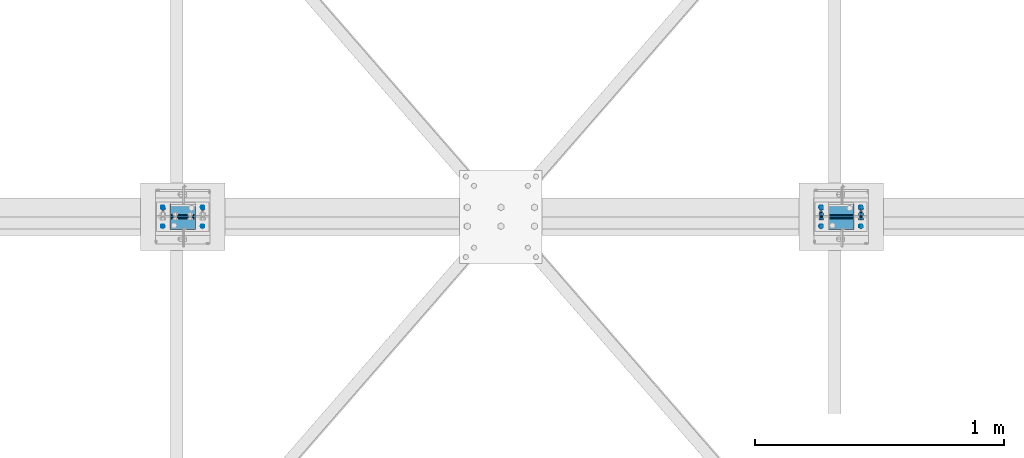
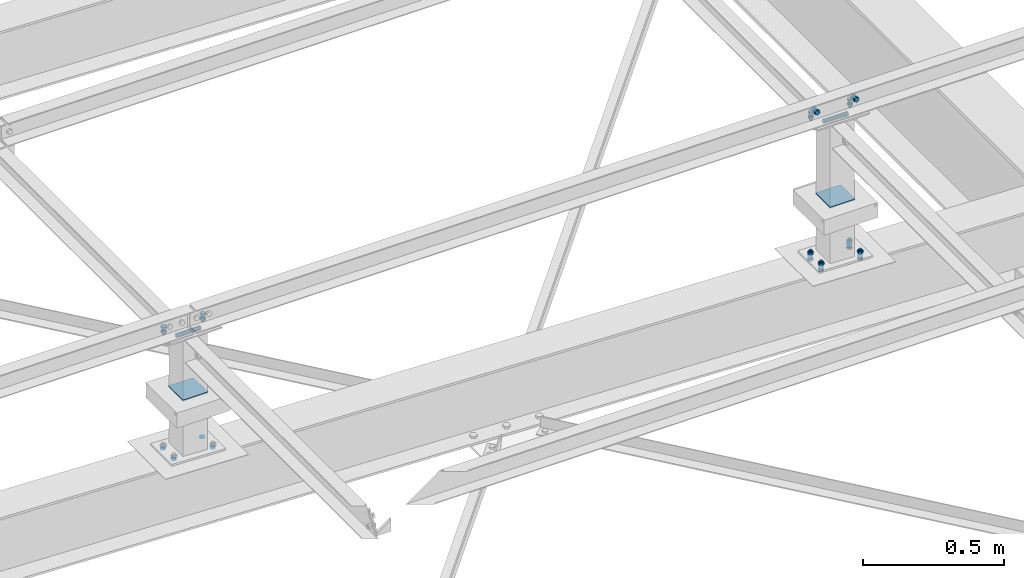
# One storey, part 173 of 3134: 10 mechanical fasteners, 6 elements without a shape of their own.
"""IFC2X3 building model written with IfcOpenShell, lengths in millimetres."""

from ifc_helpers import new_model, si_unit, frame, origin_with_axes, place, context, subcontext, project, spatial, faceted_brep, source, transform, mapped, material, type_object, element, aggregate, save


model = new_model("IFC2X3")

# Units and contexts
model_context = context("Model", 3, precision=1e-05, world=origin_with_axes())
body_context = subcontext(model_context, "Body", "Model", "MODEL_VIEW")
ifc_project = project(units=[si_unit("LENGTHUNIT", "METRE", prefix="MILLI"), si_unit("AREAUNIT", "SQUARE_METRE"), si_unit("VOLUMEUNIT", "CUBIC_METRE"), si_unit("MASSUNIT", "GRAM", prefix="KILO"), si_unit("TIMEUNIT", "SECOND"), si_unit("PLANEANGLEUNIT", "RADIAN"), si_unit("SOLIDANGLEUNIT", "STERADIAN"), si_unit("THERMODYNAMICTEMPERATUREUNIT", "DEGREE_CELSIUS"), si_unit("LUMINOUSINTENSITYUNIT", "LUMEN")], contexts=[model_context])

# Site, building, storey
site_placement = place(None, origin_with_axes())
site = spatial("IfcSite", under=ifc_project, at=site_placement, CompositionType="ELEMENT")
building_placement = place(site_placement, origin_with_axes())
building = spatial("IfcBuilding", under=site, at=building_placement, Name="Undefined", CompositionType="ELEMENT")
storey_placement = place(building_placement, origin_with_axes())
storey = spatial("IfcBuildingStorey", under=building, at=storey_placement, Name="Undefined", CompositionType="ELEMENT", Elevation=0.0)

# Assembly, mechanical fastener
assembly_1_placement = place(storey_placement, origin_with_axes())
assembly_1 = element("IfcElementAssembly", 1, at=assembly_1_placement, inside=storey, AssemblyPlace="NOTDEFINED", PredefinedType="RIGID_FRAME")
ifc_material_1 = material(Name="8.8")
mechanical_fastener_type = type_object("IfcMechanicalFastenerType", Name="Bolt assembly")
shared_shape_1 = source(origin_with_axes(), body_context, "Body", "Brep", [
    faceted_brep([(10.9696551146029, -14.0, 0.0), (5.48482755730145, -14.0, 9.5), (-5.48482755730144, -14.0, 9.5), (-10.9696551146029, -14.0, 1.34339530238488e-15), (-5.48482755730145, -14.0, -9.5), (5.48482755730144, -14.0, -9.50000000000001), (5.48482755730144, -6.0, -9.50000000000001), (-5.48482755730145, -6.0, -9.5), (-10.9696551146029, -6.0, 1.34339530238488e-15), (-5.48482755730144, -6.0, 9.5), (5.48482755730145, -6.0, 9.5), (10.9696551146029, -6.0, 0.0), (6.0, -6.0, 0.0), (5.19615242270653, -6.0, 3.00000000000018), (2.99999999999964, -6.0, 5.19615242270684), (-6.21801588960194e-13, -6.0, 6.0), (-3.00000000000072, -6.0, 5.19615242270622), (-5.19615242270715, -6.0, 2.9999999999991), (-6.0, -6.0, -1.24360317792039e-12), (-5.19615242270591, -6.0, -3.00000000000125), (-2.99999999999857, -6.0, -5.19615242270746), (1.85874342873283e-12, -6.0, -6.0), (3.00000000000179, -6.0, -5.1961524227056), (5.19615242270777, -6.0, -2.99999999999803), (5.19615242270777, 24.0, -2.99999999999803), (3.00000000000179, 24.0, -5.1961524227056), (1.85874342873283e-12, 24.0, -6.0), (-2.99999999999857, 24.0, -5.19615242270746), (-5.19615242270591, 24.0, -3.00000000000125), (-6.0, 24.0, -1.24360317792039e-12), (-5.19615242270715, 24.0, 2.9999999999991), (-3.00000000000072, 24.0, 5.19615242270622), (-6.21801588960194e-13, 24.0, 6.0), (2.99999999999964, 24.0, 5.19615242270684), (5.19615242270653, 24.0, 3.00000000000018), (6.0, 24.0, 0.0), (10.9696551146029, 6.00000000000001, 0.0), (5.48482755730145, 6.00000000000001, 9.5), (-5.48482755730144, 6.00000000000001, 9.5), (-10.9696551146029, 6.00000000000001, 1.34339530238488e-15), (-5.48482755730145, 6.00000000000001, -9.5), (5.48482755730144, 6.00000000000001, -9.50000000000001), (5.48482755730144, 16.0, -9.50000000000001), (-5.48482755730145, 16.0, -9.5), (-10.9696551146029, 16.0, 1.34339530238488e-15), (-5.48482755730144, 16.0, 9.5), (5.48482755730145, 16.0, 9.5), (10.9696551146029, 16.0, 0.0)], [[[0, 1, 2, 3, 4, 5]], [[6, 7, 8, 9, 10, 11]], [[0, 11, 10, 1]], [[1, 10, 9, 2]], [[2, 9, 8, 3]], [[3, 8, 7, 4]], [[4, 7, 6, 5]], [[5, 6, 11, 0]], [[12, 13, 14, 15, 16, 17, 18, 19, 20, 21, 22, 23]], [[24, 25, 26, 27, 28, 29, 30, 31, 32, 33, 34, 35]], [[12, 35, 34, 13]], [[13, 34, 33, 14]], [[14, 33, 32, 15]], [[15, 32, 31, 16]], [[16, 31, 30, 17]], [[17, 30, 29, 18]], [[18, 29, 28, 19]], [[19, 28, 27, 20]], [[20, 27, 26, 21]], [[21, 26, 25, 22]], [[22, 25, 24, 23]], [[23, 24, 35, 12]], [[36, 37, 38, 39, 40, 41]], [[42, 43, 44, 45, 46, 47]], [[36, 47, 46, 37]], [[37, 46, 45, 38]], [[38, 45, 44, 39]], [[39, 44, 43, 40]], [[40, 43, 42, 41]], [[41, 42, 47, 36]]]),
    faceted_brep([(7.0, -0.1, 0.0), (6.06217782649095, -0.1, 3.50000000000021), (3.49999999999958, -0.1, 6.06217782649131), (-7.25435187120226e-13, -0.1, 7.0), (-3.50000000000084, -0.1, 6.06217782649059), (-6.06217782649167, -0.1, 3.49999999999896), (-7.0, -0.1, -1.45087037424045e-12), (-6.06217782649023, -0.1, -3.50000000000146), (-3.49999999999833, -0.1, -6.06217782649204), (2.1685340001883e-12, -0.1, -7.0), (3.50000000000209, -0.1, -6.06217782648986), (6.0621778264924, -0.1, -3.4999999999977), (6.0621778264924, 6.00000000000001, -3.4999999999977), (3.50000000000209, 6.00000000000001, -6.06217782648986), (2.1685340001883e-12, 6.00000000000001, -7.0), (-3.49999999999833, 6.00000000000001, -6.06217782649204), (-6.06217782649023, 6.00000000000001, -3.50000000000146), (-7.0, 6.00000000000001, -1.45087037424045e-12), (-6.06217782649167, 6.00000000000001, 3.49999999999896), (-3.50000000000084, 6.00000000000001, 6.06217782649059), (-7.25435187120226e-13, 6.00000000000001, 7.0), (3.49999999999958, 6.00000000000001, 6.06217782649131), (6.06217782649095, 6.00000000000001, 3.50000000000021), (7.0, 6.00000000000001, 0.0), (7.0, -5.9, 0.0), (6.06217782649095, -5.9, 3.50000000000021), (3.49999999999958, -5.9, 6.06217782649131), (-7.25435187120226e-13, -5.9, 7.0), (-3.50000000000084, -5.9, 6.06217782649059), (-6.06217782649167, -5.9, 3.49999999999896), (-7.0, -5.9, -1.45087037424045e-12), (-6.06217782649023, -5.9, -3.50000000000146), (-3.49999999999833, -5.9, -6.06217782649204), (2.1685340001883e-12, -5.9, -7.0), (3.50000000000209, -5.9, -6.06217782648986), (6.0621778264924, -5.9, -3.4999999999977), (6.0621778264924, 0.0999999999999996, -3.4999999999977), (3.50000000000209, 0.0999999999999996, -6.06217782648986), (2.1685340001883e-12, 0.0999999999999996, -7.0), (-3.49999999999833, 0.0999999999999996, -6.06217782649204), (-6.06217782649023, 0.0999999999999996, -3.50000000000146), (-7.0, 0.0999999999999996, -1.45087037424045e-12), (-6.06217782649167, 0.0999999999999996, 3.49999999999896), (-3.50000000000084, 0.0999999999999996, 6.06217782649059), (-7.25435187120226e-13, 0.0999999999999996, 7.0), (3.49999999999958, 0.0999999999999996, 6.06217782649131), (6.06217782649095, 0.0999999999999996, 3.50000000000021), (7.0, 0.0999999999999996, 0.0)], [[[0, 1, 2, 3, 4, 5, 6, 7, 8, 9, 10, 11]], [[12, 13, 14, 15, 16, 17, 18, 19, 20, 21, 22, 23]], [[0, 23, 22, 1]], [[1, 22, 21, 2]], [[2, 21, 20, 3]], [[3, 20, 19, 4]], [[4, 19, 18, 5]], [[5, 18, 17, 6]], [[6, 17, 16, 7]], [[7, 16, 15, 8]], [[8, 15, 14, 9]], [[9, 14, 13, 10]], [[10, 13, 12, 11]], [[11, 12, 23, 0]], [[24, 25, 26, 27, 28, 29, 30, 31, 32, 33, 34, 35]], [[36, 37, 38, 39, 40, 41, 42, 43, 44, 45, 46, 47]], [[24, 47, 46, 25]], [[25, 46, 45, 26]], [[26, 45, 44, 27]], [[27, 44, 43, 28]], [[28, 43, 42, 29]], [[29, 42, 41, 30]], [[30, 41, 40, 31]], [[31, 40, 39, 32]], [[32, 39, 38, 33]], [[33, 38, 37, 34]], [[34, 37, 36, 35]], [[35, 36, 47, 24]]]),
])
mechanical_fastener_1_placement = place(assembly_1_placement, frame((5691.67, 32278.75, 4365.0), z_axis=(1.0, 0.0, 0.0), x_axis=(0.0, -1.0, 0.0)))
mechanical_fastener_1 = element("IfcMechanicalFastener", 2, at=mechanical_fastener_1_placement, type_object=mechanical_fastener_type, material=ifc_material_1, Name="Bolt assembly", NominalDiameter=12.0, NominalLength=30.0, context=body_context, shape_type="MappedRepresentation", body=[
    mapped(shared_shape_1, transform((0.0, -5.32963895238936e-10, -79.9999999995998))),
    mapped(shared_shape_1, transform((0.0, 5.3114490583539e-10, 79.9999999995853))),
])
aggregate(assembly_1, [mechanical_fastener_1])

assembly_2_placement = place(storey_placement, origin_with_axes())
assembly_2 = element("IfcElementAssembly", 3, at=assembly_2_placement, inside=storey, AssemblyPlace="NOTDEFINED", PredefinedType="RIGID_FRAME")
mechanical_fastener_2_placement = place(assembly_2_placement, frame((8340.0, 32278.75, 4365.0), z_axis=(1.0, 0.0, 0.0), x_axis=(0.0, -1.0, 0.0)))
mechanical_fastener_2 = element("IfcMechanicalFastener", 4, at=mechanical_fastener_2_placement, type_object=mechanical_fastener_type, material=ifc_material_1, Name="Bolt assembly", NominalDiameter=12.0, NominalLength=30.0, context=body_context, shape_type="MappedRepresentation", body=[
    mapped(shared_shape_1, transform((0.0, -5.32963895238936e-10, -79.9999999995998))),
    mapped(shared_shape_1, transform((0.0, 5.3114490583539e-10, 79.9999999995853))),
])

assembly_3_placement = place(storey_placement, origin_with_axes())
assembly_3 = element("IfcElementAssembly", 5, at=assembly_3_placement, inside=storey, AssemblyPlace="NOTDEFINED", PredefinedType="RIGID_FRAME")
shared_shape_2 = source(origin_with_axes(), body_context, "Body", "Brep", [
    faceted_brep([(10.9696551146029, -4.18346828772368, 0.0), (5.48482755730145, -4.18346828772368, 9.5), (-5.48482755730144, -4.18346828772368, 9.5), (-10.9696551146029, -4.18346828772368, 1.34339530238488e-15), (-5.48482755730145, -4.18346828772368, -9.5), (5.48482755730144, -4.18346828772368, -9.50000000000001), (5.48482755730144, 3.81653171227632, -9.50000000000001), (-5.48482755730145, 3.81653171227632, -9.5), (-10.9696551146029, 3.81653171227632, 1.34339530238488e-15), (-5.48482755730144, 3.81653171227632, 9.5), (5.48482755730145, 3.81653171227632, 9.5), (10.9696551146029, 3.81653171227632, 0.0), (6.0, 3.81653171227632, 0.0), (5.19615242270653, 3.81653171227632, 3.00000000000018), (2.99999999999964, 3.81653171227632, 5.19615242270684), (-6.21801588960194e-13, 3.81653171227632, 6.0), (-3.00000000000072, 3.81653171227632, 5.19615242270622), (-5.19615242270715, 3.81653171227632, 2.9999999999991), (-6.0, 3.81653171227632, -1.24360317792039e-12), (-5.19615242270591, 3.81653171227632, -3.00000000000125), (-2.99999999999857, 3.81653171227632, -5.19615242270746), (1.85874342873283e-12, 3.81653171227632, -6.0), (3.00000000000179, 3.81653171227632, -5.1961524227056), (5.19615242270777, 3.81653171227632, -2.99999999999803), (5.19615242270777, 38.8165317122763, -2.99999999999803), (3.00000000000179, 38.8165317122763, -5.1961524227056), (1.85874342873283e-12, 38.8165317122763, -6.0), (-2.99999999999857, 38.8165317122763, -5.19615242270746), (-5.19615242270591, 38.8165317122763, -3.00000000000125), (-6.0, 38.8165317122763, -1.24360317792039e-12), (-5.19615242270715, 38.8165317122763, 2.9999999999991), (-3.00000000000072, 38.8165317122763, 5.19615242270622), (-6.21801588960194e-13, 38.8165317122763, 6.0), (2.99999999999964, 38.8165317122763, 5.19615242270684), (5.19615242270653, 38.8165317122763, 3.00000000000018), (6.0, 38.8165317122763, 0.0), (10.9696551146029, 23.0139082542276, 0.0), (5.48482755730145, 23.0139082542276, 9.5), (-5.48482755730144, 23.0139082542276, 9.5), (-10.9696551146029, 23.0139082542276, 1.34339530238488e-15), (-5.48482755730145, 23.0139082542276, -9.5), (5.48482755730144, 23.0139082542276, -9.50000000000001), (5.48482755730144, 33.0139082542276, -9.50000000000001), (-5.48482755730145, 33.0139082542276, -9.5), (-10.9696551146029, 33.0139082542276, 1.34339530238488e-15), (-5.48482755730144, 33.0139082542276, 9.5), (5.48482755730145, 33.0139082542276, 9.5), (10.9696551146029, 33.0139082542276, 0.0)], [[[0, 1, 2, 3, 4, 5]], [[6, 7, 8, 9, 10, 11]], [[0, 11, 10, 1]], [[1, 10, 9, 2]], [[2, 9, 8, 3]], [[3, 8, 7, 4]], [[4, 7, 6, 5]], [[5, 6, 11, 0]], [[12, 13, 14, 15, 16, 17, 18, 19, 20, 21, 22, 23]], [[24, 25, 26, 27, 28, 29, 30, 31, 32, 33, 34, 35]], [[12, 35, 34, 13]], [[13, 34, 33, 14]], [[14, 33, 32, 15]], [[15, 32, 31, 16]], [[16, 31, 30, 17]], [[17, 30, 29, 18]], [[18, 29, 28, 19]], [[19, 28, 27, 20]], [[20, 27, 26, 21]], [[21, 26, 25, 22]], [[22, 25, 24, 23]], [[23, 24, 35, 12]], [[36, 37, 38, 39, 40, 41]], [[42, 43, 44, 45, 46, 47]], [[36, 47, 46, 37]], [[37, 46, 45, 38]], [[38, 45, 44, 39]], [[39, 44, 43, 40]], [[40, 43, 42, 41]], [[41, 42, 47, 36]]]),
    faceted_brep([(7.0, 3.91653171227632, 0.0), (6.06217782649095, 3.91653171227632, 3.50000000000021), (3.49999999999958, 3.91653171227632, 6.06217782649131), (-7.25435187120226e-13, 3.91653171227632, 7.0), (-3.50000000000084, 3.91653171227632, 6.06217782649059), (-6.06217782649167, 3.91653171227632, 3.49999999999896), (-7.0, 3.91653171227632, -1.45087037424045e-12), (-6.06217782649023, 3.91653171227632, -3.50000000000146), (-3.49999999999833, 3.91653171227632, -6.06217782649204), (2.1685340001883e-12, 3.91653171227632, -7.0), (3.50000000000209, 3.91653171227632, -6.06217782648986), (6.0621778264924, 3.91653171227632, -3.4999999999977), (6.0621778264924, 13.1165315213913, -3.4999999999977), (3.50000000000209, 13.1165315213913, -6.06217782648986), (2.1685340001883e-12, 13.1165315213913, -7.0), (-3.49999999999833, 13.1165315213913, -6.06217782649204), (-6.06217782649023, 13.1165315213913, -3.50000000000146), (-7.0, 13.1165315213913, -1.45087037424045e-12), (-6.06217782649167, 13.1165315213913, 3.49999999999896), (-3.50000000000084, 13.1165315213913, 6.06217782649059), (-7.25435187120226e-13, 13.1165315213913, 7.0), (3.49999999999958, 13.1165315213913, 6.06217782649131), (6.06217782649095, 13.1165315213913, 3.50000000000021), (7.0, 13.1165315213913, 0.0), (7.0, 14.9139082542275, 0.0), (6.06217782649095, 14.9139082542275, 3.50000000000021), (3.49999999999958, 14.9139082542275, 6.06217782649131), (-7.25435187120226e-13, 14.9139082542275, 7.0), (-3.50000000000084, 14.9139082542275, 6.06217782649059), (-6.06217782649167, 14.9139082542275, 3.49999999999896), (-7.0, 14.9139082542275, -1.45087037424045e-12), (-6.06217782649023, 14.9139082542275, -3.50000000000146), (-3.49999999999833, 14.9139082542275, -6.06217782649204), (2.1685340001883e-12, 14.9139082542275, -7.0), (3.50000000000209, 14.9139082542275, -6.06217782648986), (6.0621778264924, 14.9139082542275, -3.4999999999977), (6.0621778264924, 23.0139082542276, -3.4999999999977), (3.50000000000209, 23.0139082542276, -6.06217782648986), (2.1685340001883e-12, 23.0139082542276, -7.0), (-3.49999999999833, 23.0139082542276, -6.06217782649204), (-6.06217782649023, 23.0139082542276, -3.50000000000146), (-7.0, 23.0139082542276, -1.45087037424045e-12), (-6.06217782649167, 23.0139082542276, 3.49999999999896), (-3.50000000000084, 23.0139082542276, 6.06217782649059), (-7.25435187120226e-13, 23.0139082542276, 7.0), (3.49999999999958, 23.0139082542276, 6.06217782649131), (6.06217782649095, 23.0139082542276, 3.50000000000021), (7.0, 23.0139082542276, 0.0)], [[[0, 1, 2, 3, 4, 5, 6, 7, 8, 9, 10, 11]], [[12, 13, 14, 15, 16, 17, 18, 19, 20, 21, 22, 23]], [[0, 23, 22, 1]], [[1, 22, 21, 2]], [[2, 21, 20, 3]], [[3, 20, 19, 4]], [[4, 19, 18, 5]], [[5, 18, 17, 6]], [[6, 17, 16, 7]], [[7, 16, 15, 8]], [[8, 15, 14, 9]], [[9, 14, 13, 10]], [[10, 13, 12, 11]], [[11, 12, 23, 0]], [[24, 25, 26, 27, 28, 29, 30, 31, 32, 33, 34, 35]], [[36, 37, 38, 39, 40, 41, 42, 43, 44, 45, 46, 47]], [[24, 47, 46, 25]], [[25, 46, 45, 26]], [[26, 45, 44, 27]], [[27, 44, 43, 28]], [[28, 43, 42, 29]], [[29, 42, 41, 30]], [[30, 41, 40, 31]], [[31, 40, 39, 32]], [[32, 39, 38, 33]], [[33, 38, 37, 34]], [[34, 37, 36, 35]], [[35, 36, 47, 24]]]),
])
mechanical_fastener_3_placement = place(assembly_3_placement, frame((8339.1931765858, 32281.7499999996, 3735.10000668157), z_axis=(-0.999387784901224, 0.0, 0.0349865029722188), x_axis=(0.0, -1.0, 0.0)))
mechanical_fastener_3 = element("IfcMechanicalFastener", 6, at=mechanical_fastener_3_placement, type_object=mechanical_fastener_type, material=ifc_material_1, Name="Bolt assembly", NominalDiameter=12.0, NominalLength=35.0, context=body_context, shape_type="MappedRepresentation", body=[
    mapped(shared_shape_2, transform((0.0, -5.32963895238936e-10, -79.9999999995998))),
    mapped(shared_shape_2, transform((76.0, -5.32963895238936e-10, -79.9999999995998))),
    mapped(shared_shape_2, transform((0.0, 5.3114490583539e-10, 79.9999999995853))),
    mapped(shared_shape_2, transform((76.0, 5.3114490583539e-10, 79.9999999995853))),
])

assembly_4_placement = place(storey_placement, origin_with_axes())
assembly_4 = element("IfcElementAssembly", 7, at=assembly_4_placement, inside=storey, AssemblyPlace="NOTDEFINED", PredefinedType="RIGID_FRAME")
shared_shape_3 = source(origin_with_axes(), body_context, "Body", "Brep", [
    faceted_brep([(7.0, 13.0000253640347, 0.0), (6.06217782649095, 13.0000253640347, 3.50000000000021), (3.49999999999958, 13.0000253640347, 6.06217782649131), (-7.25435187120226e-13, 13.0000253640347, 7.0), (-3.50000000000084, 13.0000253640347, 6.06217782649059), (-6.06217782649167, 13.0000253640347, 3.49999999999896), (-7.0, 13.0000253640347, -1.45087037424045e-12), (-6.06217782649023, 13.0000253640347, -3.50000000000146), (-3.49999999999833, 13.0000253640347, -6.06217782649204), (2.1685340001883e-12, 13.0000253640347, -7.0), (3.50000000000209, 13.0000253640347, -6.06217782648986), (6.0621778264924, 13.0000253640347, -3.4999999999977), (6.0621778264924, 15.0999999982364, -3.4999999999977), (3.50000000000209, 15.0999999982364, -6.06217782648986), (2.1685340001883e-12, 15.0999999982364, -7.0), (-3.49999999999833, 15.0999999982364, -6.06217782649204), (-6.06217782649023, 15.0999999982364, -3.50000000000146), (-7.0, 15.0999999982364, -1.45087037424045e-12), (-6.06217782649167, 15.0999999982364, 3.49999999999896), (-3.50000000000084, 15.0999999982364, 6.06217782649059), (-7.25435187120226e-13, 15.0999999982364, 7.0), (3.49999999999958, 15.0999999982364, 6.06217782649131), (6.06217782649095, 15.0999999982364, 3.50000000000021), (7.0, 15.0999999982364, 0.0)], [[[0, 1, 2, 3, 4, 5, 6, 7, 8, 9, 10, 11]], [[12, 13, 14, 15, 16, 17, 18, 19, 20, 21, 22, 23]], [[0, 23, 22, 1]], [[1, 22, 21, 2]], [[2, 21, 20, 3]], [[3, 20, 19, 4]], [[4, 19, 18, 5]], [[5, 18, 17, 6]], [[6, 17, 16, 7]], [[7, 16, 15, 8]], [[8, 15, 14, 9]], [[9, 14, 13, 10]], [[10, 13, 12, 11]], [[11, 12, 23, 0]]]),
])
mechanical_fastener_4_placement = place(assembly_4_placement, frame((8339.1931765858, 32281.7499999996, 3735.10000668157), z_axis=(-0.999387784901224, 0.0, 0.0349865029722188), x_axis=(0.0, -1.0, 0.0)))
mechanical_fastener_4 = element("IfcMechanicalFastener", 8, at=mechanical_fastener_4_placement, type_object=mechanical_fastener_type, material=ifc_material_1, Name="Bolt assembly", NominalDiameter=12.0, NominalLength=2.0, context=body_context, shape_type="MappedRepresentation", body=[
    mapped(shared_shape_3, transform((0.0, -5.32963895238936e-10, -79.9999999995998))),
    mapped(shared_shape_3, transform((76.0, -5.32963895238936e-10, -79.9999999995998))),
    mapped(shared_shape_3, transform((0.0, 5.3114490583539e-10, 79.9999999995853))),
    mapped(shared_shape_3, transform((76.0, 5.3114490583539e-10, 79.9999999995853))),
])
aggregate(assembly_4, [mechanical_fastener_4])

assembly_5_placement = place(storey_placement, origin_with_axes())
assembly_5 = element("IfcElementAssembly", 9, at=assembly_5_placement, inside=storey, AssemblyPlace="NOTDEFINED", PredefinedType="RIGID_FRAME")
mechanical_fastener_5_placement = place(assembly_5_placement, frame((5690.86474073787, 32281.7499999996, 3827.79222028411), z_axis=(-0.999387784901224, 0.0, 0.0349865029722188), x_axis=(0.0, -1.0, 0.0)))
mechanical_fastener_5 = element("IfcMechanicalFastener", 10, at=mechanical_fastener_5_placement, type_object=mechanical_fastener_type, material=ifc_material_1, Name="Bolt assembly", NominalDiameter=12.0, NominalLength=2.0, context=body_context, shape_type="MappedRepresentation", body=[
    mapped(shared_shape_3, transform((0.0, -5.32963895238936e-10, -79.9999999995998))),
    mapped(shared_shape_3, transform((76.0, -5.32963895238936e-10, -79.9999999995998))),
    mapped(shared_shape_3, transform((0.0, 5.3114490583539e-10, 79.9999999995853))),
    mapped(shared_shape_3, transform((76.0, 5.3114490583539e-10, 79.9999999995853))),
])
aggregate(assembly_5, [mechanical_fastener_5])

assembly_6_placement = place(storey_placement, origin_with_axes())
assembly_6 = element("IfcElementAssembly", 11, at=assembly_6_placement, inside=storey, AssemblyPlace="NOTDEFINED", PredefinedType="RIGID_FRAME")
shared_shape_4 = source(origin_with_axes(), body_context, "Body", "Brep", [
    faceted_brep([(9.0, -50.0, 0.0), (7.79422863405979, -50.0, 4.50000000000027), (4.49999999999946, -50.0, 7.79422863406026), (-9.3270238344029e-13, -50.0, 9.0), (-4.50000000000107, -50.0, 7.79422863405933), (-7.79422863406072, -50.0, 4.49999999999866), (-9.0, -50.0, -1.86540476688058e-12), (-7.79422863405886, -50.0, -4.50000000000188), (-4.49999999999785, -50.0, -7.79422863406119), (2.78811514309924e-12, -50.0, -9.0), (4.50000000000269, -50.0, -7.7942286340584), (7.79422863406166, -50.0, -4.49999999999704), (7.79422863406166, 50.1, -4.49999999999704), (4.50000000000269, 50.1, -7.7942286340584), (2.78811514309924e-12, 50.1, -9.0), (-4.49999999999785, 50.1, -7.79422863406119), (-7.79422863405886, 50.1, -4.50000000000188), (-9.0, 50.1, -1.86540476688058e-12), (-7.79422863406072, 50.1, 4.49999999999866), (-4.50000000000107, 50.1, 7.79422863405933), (-9.3270238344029e-13, 50.1, 9.0), (4.49999999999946, 50.1, 7.79422863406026), (7.79422863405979, 50.1, 4.50000000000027), (9.0, 50.1, 0.0)], [[[0, 1, 2, 3, 4, 5, 6, 7, 8, 9, 10, 11]], [[12, 13, 14, 15, 16, 17, 18, 19, 20, 21, 22, 23]], [[0, 23, 22, 1]], [[1, 22, 21, 2]], [[2, 21, 20, 3]], [[3, 20, 19, 4]], [[4, 19, 18, 5]], [[5, 18, 17, 6]], [[6, 17, 16, 7]], [[7, 16, 15, 8]], [[8, 15, 14, 9]], [[9, 14, 13, 10]], [[10, 13, 12, 11]], [[11, 12, 23, 0]]]),
])
mechanical_fastener_6_placement = place(assembly_6_placement, frame((5691.67, 32243.75, 4345.0), z_axis=(0.0, 1.0, 0.0), x_axis=(0.0, 0.0, 1.0)))
mechanical_fastener_6 = element("IfcMechanicalFastener", 12, at=mechanical_fastener_6_placement, type_object=mechanical_fastener_type, material=ifc_material_1, Name="Bolt assembly", NominalDiameter=16.0, NominalLength=100.0, context=body_context, shape_type="MappedRepresentation", body=[
    mapped(shared_shape_4, transform((0.0, 0.0, 0.0))),
])

# Mechanical fastener
mechanical_fastener_7_placement = place(assembly_3_placement, frame((8340.0, 32243.75, 4345.0), z_axis=(0.0, 1.0, 0.0), x_axis=(0.0, 0.0, 1.0)))
mechanical_fastener_7 = element("IfcMechanicalFastener", 13, at=mechanical_fastener_7_placement, type_object=mechanical_fastener_type, material=ifc_material_1, Name="Bolt assembly", NominalDiameter=16.0, NominalLength=100.0, context=body_context, shape_type="MappedRepresentation", body=[
    mapped(shared_shape_4, transform((0.0, 0.0, 0.0))),
])

ifc_material_2 = material(Name="6.8")
shared_shape_5 = source(origin_with_axes(), body_context, "Body", "Brep", [
    faceted_brep([(51.5, 1.36424205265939e-12, 50.0), (51.3858192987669, 1.36424205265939e-12, 50.5740251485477), (51.0606601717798, 1.36424205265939e-12, 51.0606601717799), (50.5740251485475, 1.36424205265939e-12, 51.385819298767), (-50.0000000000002, 1.36424205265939e-12, 51.5), (-50.7500000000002, 1.36424205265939e-12, 51.2990381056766), (-51.2990381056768, 1.36424205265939e-12, 50.7499999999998), (-51.5, 1.36424205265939e-12, 49.9999999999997), (-51.5, 1.36424205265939e-12, -50.0000000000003), (-51.2990381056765, 1.36424205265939e-12, -50.7500000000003), (-50.7499999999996, 1.36424205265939e-12, -51.2990381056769), (-49.9999999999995, 1.36424205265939e-12, -51.5), (50.0000000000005, 1.36424205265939e-12, -51.5), (50.7500000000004, 1.36424205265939e-12, -51.2990381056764), (51.2990381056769, 1.36424205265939e-12, -50.7499999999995), (51.5, 1.36424205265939e-12, -49.9999999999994), (51.5, 5.10000000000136, -49.9999999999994), (51.2990381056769, 5.10000000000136, -50.7499999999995), (50.7500000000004, 5.10000000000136, -51.2990381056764), (50.0000000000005, 5.10000000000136, -51.5), (-49.9999999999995, 5.10000000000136, -51.5), (-50.7499999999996, 5.10000000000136, -51.2990381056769), (-51.2990381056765, 5.10000000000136, -50.7500000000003), (-51.5, 5.10000000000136, -50.0000000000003), (-51.5, 5.10000000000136, 49.9999999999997), (-51.2990381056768, 5.10000000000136, 50.7499999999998), (-50.7500000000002, 5.10000000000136, 51.2990381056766), (-50.0000000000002, 5.10000000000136, 51.5), (50.5740251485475, 5.10000000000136, 51.385819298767), (51.0606601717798, 5.10000000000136, 51.0606601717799), (51.3858192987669, 5.10000000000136, 50.5740251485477), (51.5, 5.10000000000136, 50.0)], [[[0, 1, 2, 3, 4, 5, 6, 7, 8, 9, 10, 11, 12, 13, 14, 15]], [[16, 17, 18, 19, 20, 21, 22, 23, 24, 25, 26, 27, 28, 29, 30, 31]], [[0, 31, 30, 1]], [[1, 30, 29, 2]], [[2, 29, 28, 3]], [[3, 28, 27, 4]], [[4, 27, 26, 5]], [[5, 26, 25, 6]], [[6, 25, 24, 7]], [[7, 24, 23, 8]], [[8, 23, 22, 9]], [[9, 22, 21, 10]], [[10, 21, 20, 11]], [[11, 20, 19, 12]], [[12, 19, 18, 13]], [[13, 18, 17, 14]], [[14, 17, 16, 15]], [[15, 16, 31, 0]]]),
])
mechanical_fastener_8_placement = place(assembly_3_placement, frame((8340.0, 32243.75, 4004.89), z_axis=(0.0, -1.0, 0.0), x_axis=(-1.0, 0.0, 0.0)))
mechanical_fastener_8 = element("IfcMechanicalFastener", 14, at=mechanical_fastener_8_placement, type_object=mechanical_fastener_type, material=ifc_material_2, Name="Bolt assembly", NominalDiameter=10.0, NominalLength=5.0, context=body_context, shape_type="MappedRepresentation", body=[
    mapped(shared_shape_5, transform((0.0, 0.0, 0.0))),
])

aggregate(assembly_3, [mechanical_fastener_3, mechanical_fastener_8, mechanical_fastener_7])

mechanical_fastener_9_placement = place(assembly_6_placement, frame((5691.66156415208, 32243.75, 4097.5922136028), z_axis=(0.0, -1.0, 0.0), x_axis=(-1.0, 0.0, 0.0)))
mechanical_fastener_9 = element("IfcMechanicalFastener", 15, at=mechanical_fastener_9_placement, type_object=mechanical_fastener_type, material=ifc_material_2, Name="Bolt assembly", NominalDiameter=10.0, NominalLength=5.0, context=body_context, shape_type="MappedRepresentation", body=[
    mapped(shared_shape_5, transform((0.0, 0.0, 0.0))),
])

aggregate(assembly_6, [mechanical_fastener_9, mechanical_fastener_6])

shared_shape_6 = source(origin_with_axes(), body_context, "Body", "Brep", [
    faceted_brep([(10.9696551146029, -12.0, 0.0), (5.48482755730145, -12.0, 9.5), (-5.48482755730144, -12.0, 9.5), (-10.9696551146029, -12.0, 1.34339530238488e-15), (-5.48482755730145, -12.0, -9.5), (5.48482755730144, -12.0, -9.50000000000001), (5.48482755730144, -4.0, -9.50000000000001), (-5.48482755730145, -4.0, -9.5), (-10.9696551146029, -4.0, 1.34339530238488e-15), (-5.48482755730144, -4.0, 9.5), (5.48482755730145, -4.0, 9.5), (10.9696551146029, -4.0, 0.0), (6.0, -4.0, 0.0), (5.19615242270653, -4.0, 3.00000000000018), (2.99999999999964, -4.0, 5.19615242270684), (-6.21801588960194e-13, -4.0, 6.0), (-3.00000000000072, -4.0, 5.19615242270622), (-5.19615242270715, -4.0, 2.9999999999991), (-6.0, -4.0, -1.24360317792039e-12), (-5.19615242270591, -4.0, -3.00000000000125), (-2.99999999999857, -4.0, -5.19615242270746), (1.85874342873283e-12, -4.0, -6.0), (3.00000000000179, -4.0, -5.1961524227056), (5.19615242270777, -4.0, -2.99999999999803), (5.19615242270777, 21.0, -2.99999999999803), (3.00000000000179, 21.0, -5.1961524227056), (1.85874342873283e-12, 21.0, -6.0), (-2.99999999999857, 21.0, -5.19615242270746), (-5.19615242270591, 21.0, -3.00000000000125), (-6.0, 21.0, -1.24360317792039e-12), (-5.19615242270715, 21.0, 2.9999999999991), (-3.00000000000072, 21.0, 5.19615242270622), (-6.21801588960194e-13, 21.0, 6.0), (2.99999999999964, 21.0, 5.19615242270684), (5.19615242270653, 21.0, 3.00000000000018), (6.0, 21.0, 0.0), (10.9696551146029, 6.00000000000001, 0.0), (5.48482755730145, 6.00000000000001, 9.5), (-5.48482755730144, 6.00000000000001, 9.5), (-10.9696551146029, 6.00000000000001, 1.34339530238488e-15), (-5.48482755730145, 6.00000000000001, -9.5), (5.48482755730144, 6.00000000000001, -9.50000000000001), (5.48482755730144, 16.0, -9.50000000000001), (-5.48482755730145, 16.0, -9.5), (-10.9696551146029, 16.0, 1.34339530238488e-15), (-5.48482755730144, 16.0, 9.5), (5.48482755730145, 16.0, 9.5), (10.9696551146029, 16.0, 0.0)], [[[0, 1, 2, 3, 4, 5]], [[6, 7, 8, 9, 10, 11]], [[0, 11, 10, 1]], [[1, 10, 9, 2]], [[2, 9, 8, 3]], [[3, 8, 7, 4]], [[4, 7, 6, 5]], [[5, 6, 11, 0]], [[12, 13, 14, 15, 16, 17, 18, 19, 20, 21, 22, 23]], [[24, 25, 26, 27, 28, 29, 30, 31, 32, 33, 34, 35]], [[12, 35, 34, 13]], [[13, 34, 33, 14]], [[14, 33, 32, 15]], [[15, 32, 31, 16]], [[16, 31, 30, 17]], [[17, 30, 29, 18]], [[18, 29, 28, 19]], [[19, 28, 27, 20]], [[20, 27, 26, 21]], [[21, 26, 25, 22]], [[22, 25, 24, 23]], [[23, 24, 35, 12]], [[36, 37, 38, 39, 40, 41]], [[42, 43, 44, 45, 46, 47]], [[36, 47, 46, 37]], [[37, 46, 45, 38]], [[38, 45, 44, 39]], [[39, 44, 43, 40]], [[40, 43, 42, 41]], [[41, 42, 47, 36]]]),
    faceted_brep([(7.0, -3.9, 0.0), (6.06217782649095, -3.9, 3.50000000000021), (3.49999999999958, -3.9, 6.06217782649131), (-7.25435187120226e-13, -3.9, 7.0), (-3.50000000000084, -3.9, 6.06217782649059), (-6.06217782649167, -3.9, 3.49999999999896), (-7.0, -3.9, -1.45087037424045e-12), (-6.06217782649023, -3.9, -3.50000000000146), (-3.49999999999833, -3.9, -6.06217782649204), (2.1685340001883e-12, -3.9, -7.0), (3.50000000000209, -3.9, -6.06217782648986), (6.0621778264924, -3.9, -3.4999999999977), (6.0621778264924, 0.0999999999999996, -3.4999999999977), (3.50000000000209, 0.0999999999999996, -6.06217782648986), (2.1685340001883e-12, 0.0999999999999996, -7.0), (-3.49999999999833, 0.0999999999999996, -6.06217782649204), (-6.06217782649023, 0.0999999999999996, -3.50000000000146), (-7.0, 0.0999999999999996, -1.45087037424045e-12), (-6.06217782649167, 0.0999999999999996, 3.49999999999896), (-3.50000000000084, 0.0999999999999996, 6.06217782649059), (-7.25435187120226e-13, 0.0999999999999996, 7.0), (3.49999999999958, 0.0999999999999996, 6.06217782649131), (6.06217782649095, 0.0999999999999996, 3.50000000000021), (7.0, 0.0999999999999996, 0.0), (7.0, -0.1, 0.0), (6.06217782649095, -0.1, 3.50000000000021), (3.49999999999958, -0.1, 6.06217782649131), (-7.25435187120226e-13, -0.1, 7.0), (-3.50000000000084, -0.1, 6.06217782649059), (-6.06217782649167, -0.1, 3.49999999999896), (-7.0, -0.1, -1.45087037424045e-12), (-6.06217782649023, -0.1, -3.50000000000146), (-3.49999999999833, -0.1, -6.06217782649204), (2.1685340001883e-12, -0.1, -7.0), (3.50000000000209, -0.1, -6.06217782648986), (6.0621778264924, -0.1, -3.4999999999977), (6.0621778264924, 6.00000000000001, -3.4999999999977), (3.50000000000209, 6.00000000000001, -6.06217782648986), (2.1685340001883e-12, 6.00000000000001, -7.0), (-3.49999999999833, 6.00000000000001, -6.06217782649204), (-6.06217782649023, 6.00000000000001, -3.50000000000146), (-7.0, 6.00000000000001, -1.45087037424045e-12), (-6.06217782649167, 6.00000000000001, 3.49999999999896), (-3.50000000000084, 6.00000000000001, 6.06217782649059), (-7.25435187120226e-13, 6.00000000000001, 7.0), (3.49999999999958, 6.00000000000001, 6.06217782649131), (6.06217782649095, 6.00000000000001, 3.50000000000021), (7.0, 6.00000000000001, 0.0)], [[[0, 1, 2, 3, 4, 5, 6, 7, 8, 9, 10, 11]], [[12, 13, 14, 15, 16, 17, 18, 19, 20, 21, 22, 23]], [[0, 23, 22, 1]], [[1, 22, 21, 2]], [[2, 21, 20, 3]], [[3, 20, 19, 4]], [[4, 19, 18, 5]], [[5, 18, 17, 6]], [[6, 17, 16, 7]], [[7, 16, 15, 8]], [[8, 15, 14, 9]], [[9, 14, 13, 10]], [[10, 13, 12, 11]], [[11, 12, 23, 0]], [[24, 25, 26, 27, 28, 29, 30, 31, 32, 33, 34, 35]], [[36, 37, 38, 39, 40, 41, 42, 43, 44, 45, 46, 47]], [[24, 47, 46, 25]], [[25, 46, 45, 26]], [[26, 45, 44, 27]], [[27, 44, 43, 28]], [[28, 43, 42, 29]], [[29, 42, 41, 30]], [[30, 41, 40, 31]], [[31, 40, 39, 32]], [[32, 39, 38, 33]], [[33, 38, 37, 34]], [[34, 37, 36, 35]], [[35, 36, 47, 24]]]),
])
mechanical_fastener_10_placement = place(assembly_2_placement, frame((8340.0, 32243.75, 4400.0), z_axis=(1.0, 0.0, 0.0), x_axis=(0.0, 0.0, -1.0)))
mechanical_fastener_10 = element("IfcMechanicalFastener", 16, at=mechanical_fastener_10_placement, type_object=mechanical_fastener_type, material=ifc_material_1, Name="Bolt assembly", NominalDiameter=12.0, NominalLength=25.0, context=body_context, shape_type="MappedRepresentation", body=[
    mapped(shared_shape_6, transform((0.0, -5.32963895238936e-10, -79.9999999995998))),
    mapped(shared_shape_6, transform((0.0, 5.3114490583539e-10, 79.9999999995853))),
])

aggregate(assembly_2, [mechanical_fastener_10, mechanical_fastener_2])

save(model, "model.ifc")
